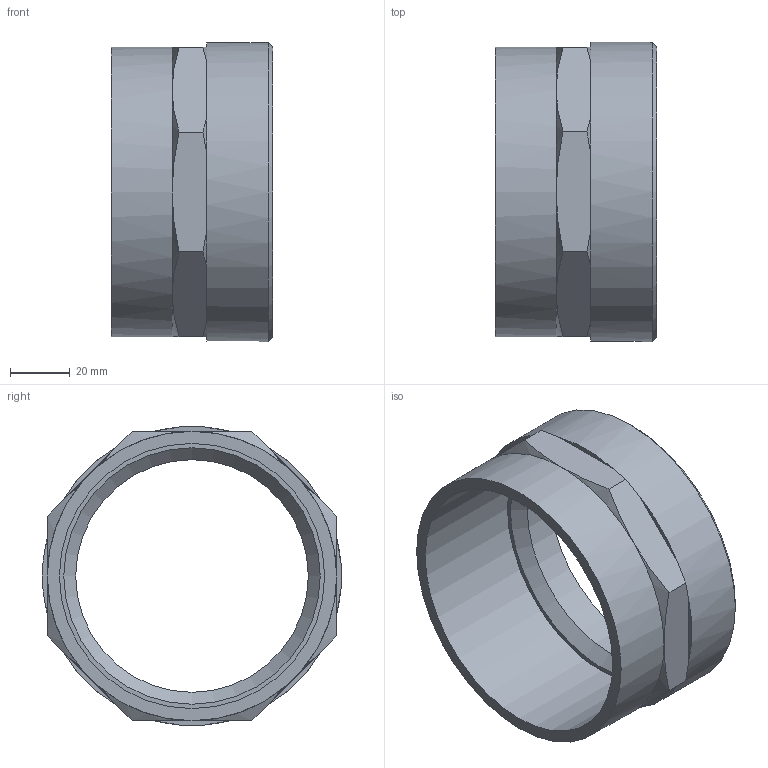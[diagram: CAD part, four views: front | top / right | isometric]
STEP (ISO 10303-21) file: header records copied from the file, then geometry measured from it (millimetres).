
FILE_DESCRIPTION((''),'2;1');
FILE_NAME('C:\Documents and Settings\pajchrowski\Desktop\step\14370_89-312(4).stp','2009-05-07T08:00:41',('pajchrowski'),(''),'Autodesk Inventor 2009','Autodesk Inventor 2009','');
FILE_SCHEMA(('AUTOMOTIVE_DESIGN { 1 0 10303 214 1 1 1 1 }'));
Length unit declared in the file: millimetre
Products named in the file (1): 437089312
Bounding box: 54 x 100.33 x 100.33 mm (x, y, z)
Volume: 98658.2 mm3; surface area: 36861 mm2
Topology: 1 solids, 1 shells, 41 faces, 87 edges, 49 vertices
Faces by surface type: plane 19, cone 18, cylinder 4
Full cylindrical faces by diameter (mm): 78 x1, 88.9 x1, 97 x1, 100.33 x1
Entity records: 1036 total; most frequent: CARTESIAN_POINT 234, DIRECTION 164, ORIENTED_EDGE 160, EDGE_CURVE 80, AXIS2_PLACEMENT_3D 74, EDGE_LOOP 50, VERTEX_POINT 48, FACE_OUTER_BOUND 41
